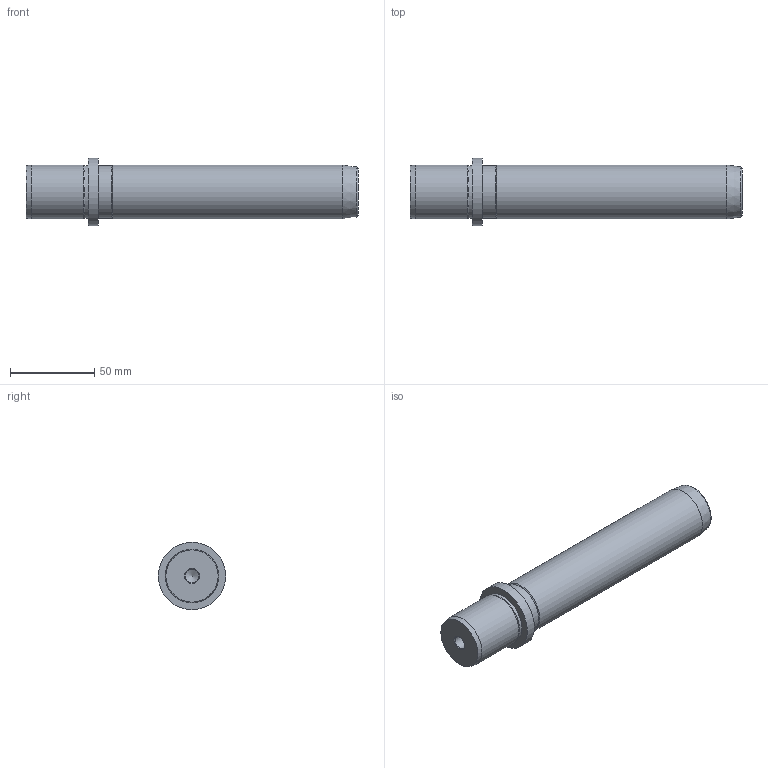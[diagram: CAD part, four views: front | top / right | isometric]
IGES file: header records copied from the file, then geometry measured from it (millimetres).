
Global section: file name: CEAQ32160.ipt; native system: Autodesk Inventor 2021; preprocessor: unknown; author: SM; date: 20211206.133506; units: millimetre
Bounding box: 197 x 40 x 40 mm (x, y, z)
Volume: 157281.6 mm3; surface area: 23643.9 mm2
Topology: 1 solids, 1 shells, 20 faces, 45 edges, 29 vertices
Faces by surface type: revolution 5, cylinder 5, cone 4, plane 4, bspline 2
Full cylindrical faces by diameter (mm): 31 x2, 32 x2, 40 x1
